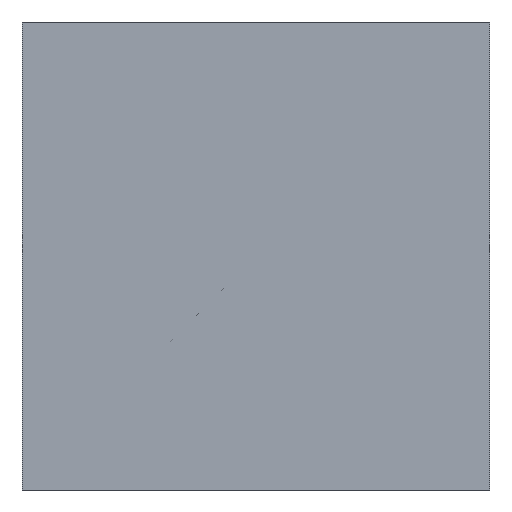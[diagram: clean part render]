
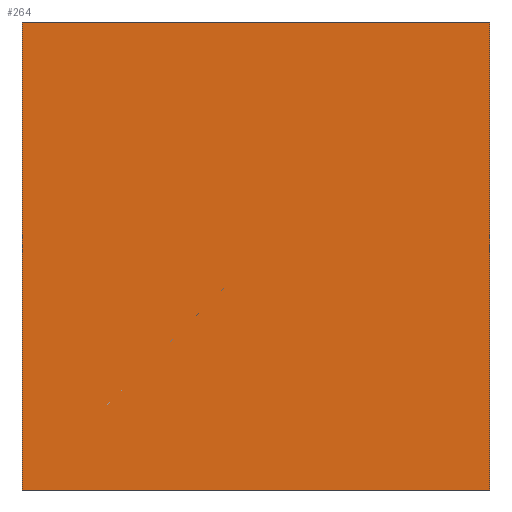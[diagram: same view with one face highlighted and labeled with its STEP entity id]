
A CAD part, front view. The second image highlights one B-rep face of the part: STEP entity #264.
In plain terms, the highlighted planar face has unit normal (0, -1, 0).
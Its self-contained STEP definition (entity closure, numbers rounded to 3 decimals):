
#1 = VECTOR ( 'NONE', #886, 1000. ) ;
#7 = EDGE_LOOP ( 'NONE', ( #602, #708, #672, #680 ) ) ;
#12 = CARTESIAN_POINT ( 'NONE',  ( -15., -50., 15. ) ) ;
#13 = VECTOR ( 'NONE', #230, 1000. ) ;
#16 = EDGE_CURVE ( 'NONE', #639, #277, #23, .T. ) ;
#23 = LINE ( 'NONE', #436, #470 ) ;
#34 = LINE ( 'NONE', #12, #1 ) ;
#73 = LINE ( 'NONE', #797, #13 ) ;
#76 = CARTESIAN_POINT ( 'NONE',  ( -15., -50., -15. ) ) ;
#107 = VERTEX_POINT ( 'NONE', #813 ) ;
#149 = VECTOR ( 'NONE', #647, 1000. ) ;
#159 = VERTEX_POINT ( 'NONE', #76 ) ;
#230 = DIRECTION ( 'NONE',  ( -1., 0., 0. ) ) ;
#264 = ADVANCED_FACE ( 'NONE', ( #616 ), #451, .F. ) ;
#277 = VERTEX_POINT ( 'NONE', #911 ) ;
#314 = CARTESIAN_POINT ( 'NONE',  ( 15., -50., 15. ) ) ;
#346 = EDGE_CURVE ( 'NONE', #107, #159, #73, .T. ) ;
#350 = EDGE_CURVE ( 'NONE', #639, #107, #652, .T. ) ;
#436 = CARTESIAN_POINT ( 'NONE',  ( 15., -50., 15. ) ) ;
#451 = PLANE ( 'NONE',  #878 ) ;
#459 = CARTESIAN_POINT ( 'NONE',  ( 15., -50., 15. ) ) ;
#470 = VECTOR ( 'NONE', #599, 1000. ) ;
#599 = DIRECTION ( 'NONE',  ( -1., 0., 0. ) ) ;
#602 = ORIENTED_EDGE ( 'NONE', *, *, #932, .T. ) ;
#616 = FACE_OUTER_BOUND ( 'NONE', #7, .T. ) ;
#639 = VERTEX_POINT ( 'NONE', #314 ) ;
#647 = DIRECTION ( 'NONE',  ( 0., 0., -1. ) ) ;
#652 = LINE ( 'NONE', #656, #149 ) ;
#656 = CARTESIAN_POINT ( 'NONE',  ( 15., -50., 15. ) ) ;
#672 = ORIENTED_EDGE ( 'NONE', *, *, #350, .F. ) ;
#680 = ORIENTED_EDGE ( 'NONE', *, *, #16, .T. ) ;
#681 = DIRECTION ( 'NONE',  ( 0., 0., 1. ) ) ;
#708 = ORIENTED_EDGE ( 'NONE', *, *, #346, .F. ) ;
#758 = DIRECTION ( 'NONE',  ( 0., 1., 0. ) ) ;
#797 = CARTESIAN_POINT ( 'NONE',  ( 15., -50., -15. ) ) ;
#813 = CARTESIAN_POINT ( 'NONE',  ( 15., -50., -15. ) ) ;
#878 = AXIS2_PLACEMENT_3D ( 'NONE', #459, #758, #681 ) ;
#886 = DIRECTION ( 'NONE',  ( 0., 0., -1. ) ) ;
#911 = CARTESIAN_POINT ( 'NONE',  ( -15., -50., 15. ) ) ;
#932 = EDGE_CURVE ( 'NONE', #277, #159, #34, .T. ) ;
